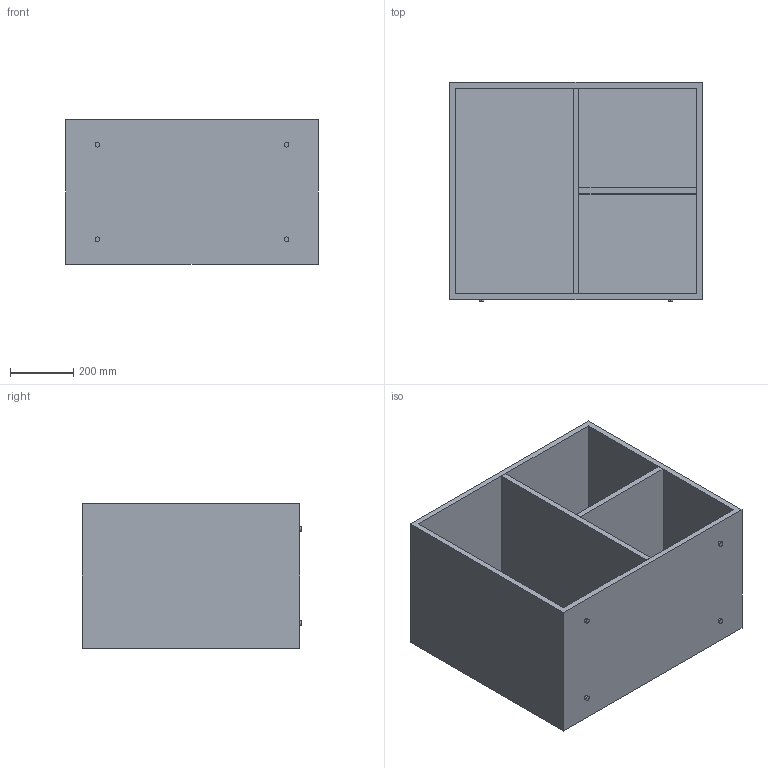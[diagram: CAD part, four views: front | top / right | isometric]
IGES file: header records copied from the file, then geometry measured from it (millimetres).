
Start section: SolidWorks IGES file using NURBS representation for surfaces
Global section: file name: G:\VICCARBE\PRODUCTOS\12-LEG-IN\04-MODELADOS (PLANOS)\SOLIDWORKS\LEG_IN 2011\ENSAMBLAJES\Mesas 3D\IGES\BUCS\VICCARBE_DO800D.IGS; native system: SolidWorks 2009; preprocessor: SolidWorks 2009; author: RUBEN; date: 111024.103746; units: millimetre
Bounding box: 800 x 697 x 460 mm (x, y, z)
Surface area: 4742962.5 mm2 (no closed solid volume)
Topology: 0 solids, 0 shells, 35 faces, 384 edges, 384 vertices
Faces by surface type: bspline 35
